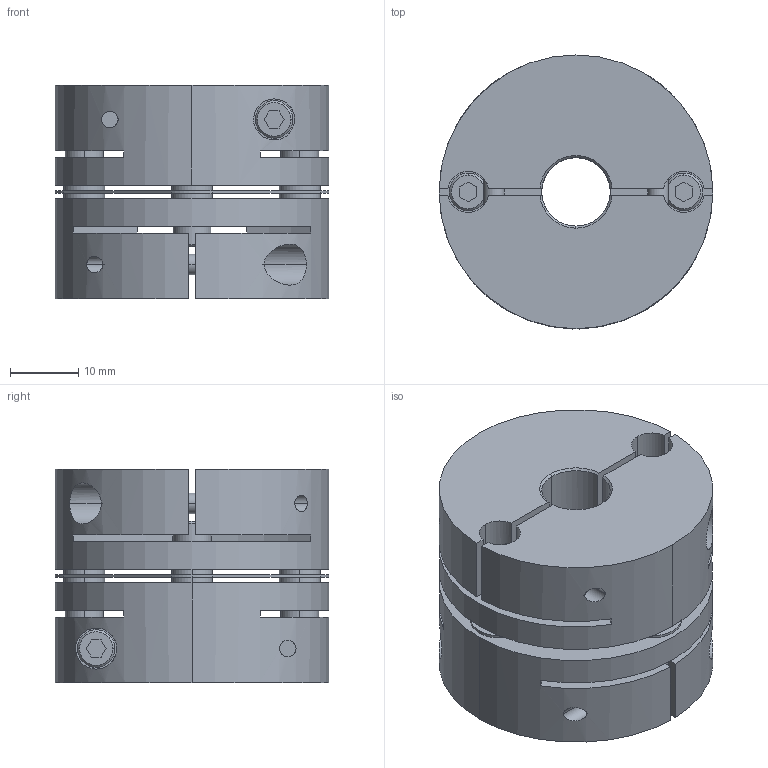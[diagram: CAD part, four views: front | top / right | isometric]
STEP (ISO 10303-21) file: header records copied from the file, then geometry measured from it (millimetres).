
FILE_DESCRIPTION((''),'2;1');
FILE_NAME('LAS-40C-10×19.stp','2011-08-11T08:55:22',(''),(''),'AutoCAD STEP 2000i','AutoCAD 2000i',', , ');
FILE_SCHEMA(('CONFIG_CONTROL_DESIGN'));
Length unit declared in the file: millimetre
Products named in the file (6): LAS-40C-10×15; 忣兜1; LA-4002-D15; LA-4002-D10-1; LA-4002-D10; LAS40-ITA
Assembly tree (5 placements, depth 2):
  LAS-40C-10×15
    忣兜1
    LA-4002-D15
    LA-4002-D10-1
    LA-4002-D10
    LAS40-ITA
Bounding box: 40 x 40 x 31.2 mm (x, y, z)
Volume: 28881.6 mm3; surface area: 15114 mm2
Topology: 1 solids, 1 shells, 236 faces, 624 edges, 408 vertices
Faces by surface type: plane 112, cylinder 96, cone 28
Entity records: 8177 total; most frequent: CARTESIAN_POINT 1970, DIRECTION 1304, ORIENTED_EDGE 1248, EDGE_CURVE 624, AXIS2_PLACEMENT_3D 478, VERTEX_POINT 408, VECTOR 348, LINE 348
